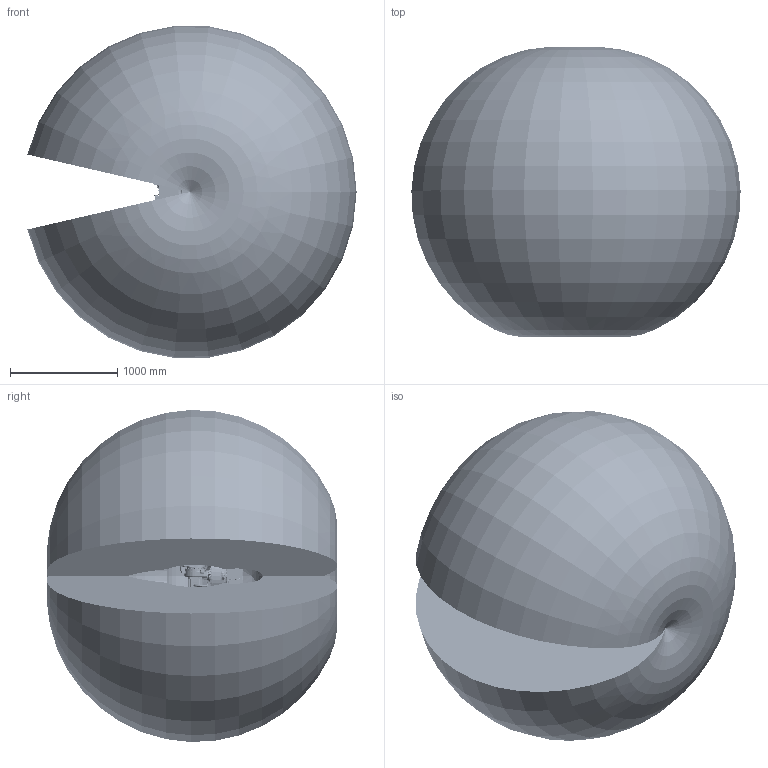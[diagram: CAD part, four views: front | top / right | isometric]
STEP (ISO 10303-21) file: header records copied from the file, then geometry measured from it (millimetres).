
FILE_DESCRIPTION (( 'STEP AP203' ), '1' );
FILE_NAME ('CRP-RA15-12-J 軞蚾芞 2024.03.13.STEP', '2024-03-18T01:21:10', ( '' ), ( '' ), 'SwSTEP 2.0', 'SolidWorks 2021', '' );
FILE_SCHEMA (( 'CONFIG_CONTROL_DESIGN' ));
Length unit declared in the file: millimetre
Products named in the file (9): CRP-RA15-12-J 軞蚾芞 2024.03.13; RA15-12-J 勂窒郪璃; RA15-12-J 菁釱郪璃; CRP-RA15-12-J 奪盄婦; RA15-12-J 婦釐芞; RA15-12-J 苤旋郪璃; RA15-12-J 湮旋郪璃; RA15-12-J 紵窒郪璃; RA15-12-J 殈窒郪璃
Assembly tree (8 placements, depth 2):
  CRP-RA15-12-J 軞蚾芞 2024.03.13
    RA15-12-J 菁釱郪璃
    RA15-12-J 湮旋郪璃
    RA15-12-J 殈窒郪璃
    RA15-12-J 紵窒郪璃
    RA15-12-J 苤旋郪璃
    RA15-12-J 勂窒郪璃
    CRP-RA15-12-J 奪盄婦
    RA15-12-J 婦釐芞
Bounding box: 3066.93 x 2706.86 x 3092.81 mm (x, y, z)
Volume: 13164038745.9 mm3; surface area: 38982822.5 mm2
Topology: 29 solids, 321 shells, 15243 faces, 38220 edges, 23491 vertices
Faces by surface type: plane 6183, cylinder 4616, bspline 2661, cone 1286, torus 414, sphere 83
Entity records: 919772 total; most frequent: CARTESIAN_POINT 582020, ORIENTED_EDGE 74264, DIRECTION 63594, EDGE_CURVE 37132, AXIS2_PLACEMENT_3D 23734, VERTEX_POINT 23483, EDGE_LOOP 16605, VECTOR 16126
